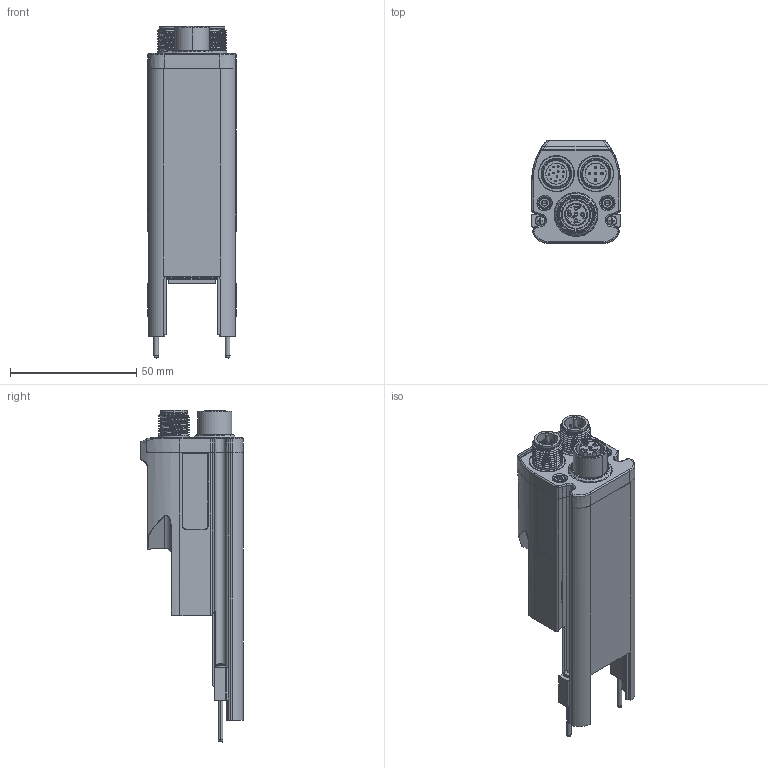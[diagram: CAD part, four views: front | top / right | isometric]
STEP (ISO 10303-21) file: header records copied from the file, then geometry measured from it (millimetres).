
FILE_DESCRIPTION((''),'2;1');
FILE_NAME('2012935','2013-06-14T',('rink'),(''),'PRO/ENGINEER BY PARAMETRIC TECHNOLOGY CORPORATION, 2011040','PRO/ENGINEER BY PARAMETRIC TECHNOLOGY CORPORATION, 2011040','');
FILE_SCHEMA(('AUTOMOTIVE_DESIGN_CC2 { 1 2 10303 214 -1 1 5 2 }'));
Products named in the file (1): 2012935
Bounding box: 35 x 40.66 x 131.6 mm (x, y, z)
Surface area: 26176.6 mm2
Topology: 5 solids, 155 shells, 988 faces, 4161 edges, 3149 vertices
Faces by surface type: plane 515, cylinder 218, cone 111, bspline 86, torus 34, sphere 12, extrusion 12
Entity records: 290871 total; most frequent: CARTESIAN_POINT 246279, ORIENTED_EDGE 5832, DIRECTION 5448, PRESENTATION_STYLE_ASSIGNMENT 4312, STYLED_ITEM 4307, CURVE_STYLE 4154, EDGE_CURVE 4145, VERTEX_POINT 3133
